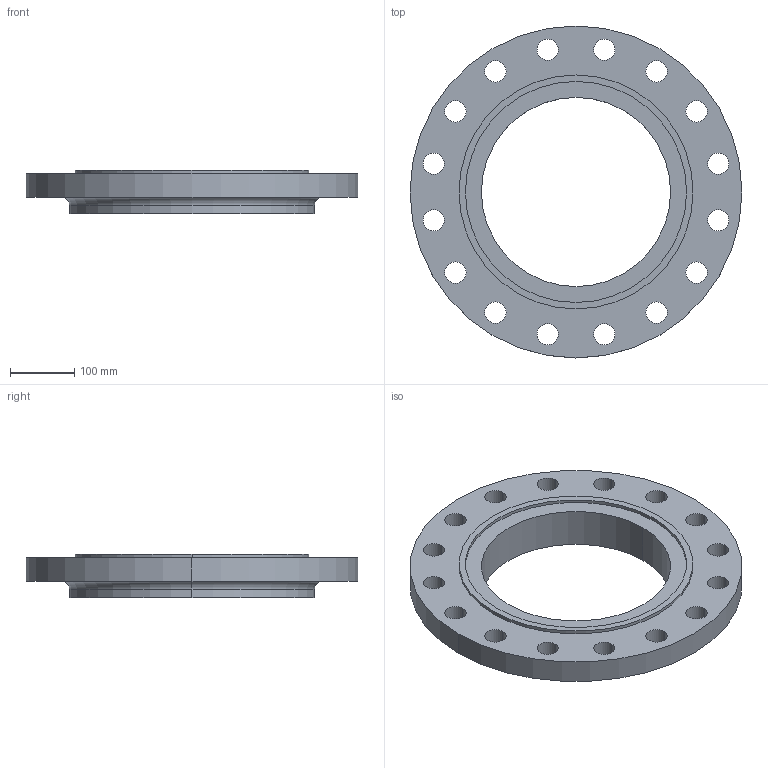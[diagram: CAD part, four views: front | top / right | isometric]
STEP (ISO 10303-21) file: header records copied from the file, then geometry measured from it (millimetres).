
FILE_DESCRIPTION (( 'STEP AP214' ), '1' );
FILE_NAME ('PN40 DN300 Type 13 - Type C Face.STEP', '2019-01-05T20:19:33', ( '' ), ( '' ), 'SwSTEP 2.0', 'SolidWorks 2019', '' );
FILE_SCHEMA (( 'AUTOMOTIVE_DESIGN' ));
Length unit declared in the file: millimetre
Products named in the file (1): PN40 DN300 Type 13 - Type C Face
Bounding box: 515 x 515 x 67 mm (x, y, z)
Volume: 5934366.6 mm3; surface area: 467184.5 mm2
Topology: 1 solids, 1 shells, 49 faces, 130 edges, 86 vertices
Faces by surface type: cylinder 42, plane 5, torus 2
Entity records: 1678 total; most frequent: DIRECTION 318, CARTESIAN_POINT 266, ORIENTED_EDGE 260, AXIS2_PLACEMENT_3D 138, EDGE_CURVE 130, CIRCLE 88, VERTEX_POINT 86, EDGE_LOOP 86
